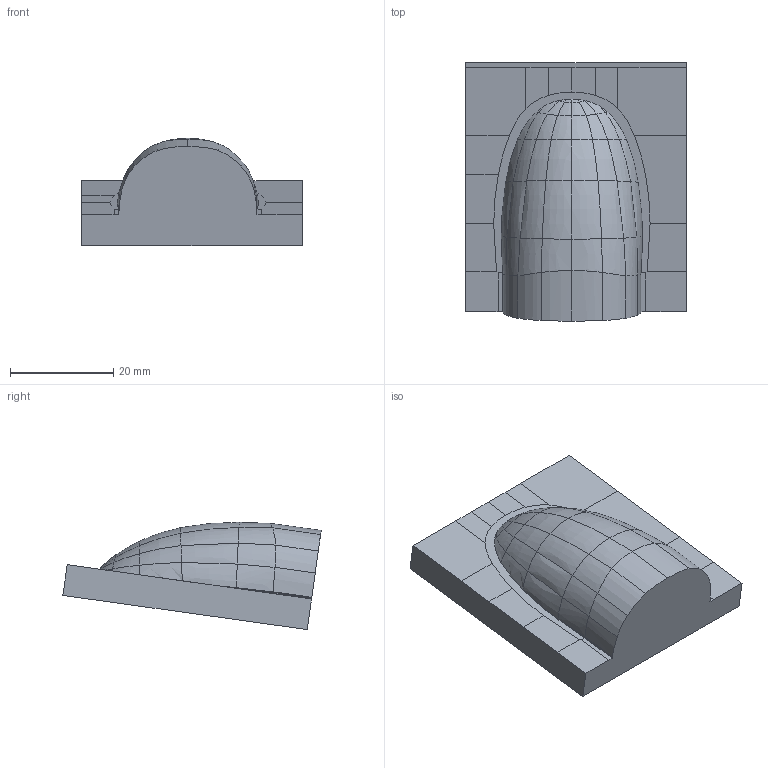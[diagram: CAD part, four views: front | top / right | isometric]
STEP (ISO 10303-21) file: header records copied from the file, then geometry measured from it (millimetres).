
FILE_DESCRIPTION (( 'STEP AP214' ), '1' );
FILE_NAME ('耀撿硌潑30mm px6ax_奻', '2026-07-07T11:30:00', ( '' ), ( '' ), 'SwSTEP 2.0', 'SolidWorks 2024', '' );
FILE_SCHEMA (( 'AUTOMOTIVE_DESIGN' ));
Length unit declared in the file: millimetre
Products named in the file (1): 模具指尖30mm px6ax_上
Bounding box: 42.76 x 50.01 x 20.77 mm (x, y, z)
Volume: 20871.9 mm3; surface area: 5988.9 mm2
Topology: 1 solids, 1 shells, 87 faces, 209 edges, 122 vertices
Faces by surface type: bspline 75, plane 12
Entity records: 5865 total; most frequent: CARTESIAN_POINT 4415, ORIENTED_EDGE 414, EDGE_CURVE 207, B_SPLINE_CURVE_WITH_KNOTS 164, VERTEX_POINT 122, FACE_OUTER_BOUND 87, EDGE_LOOP 87, ADVANCED_FACE 87
